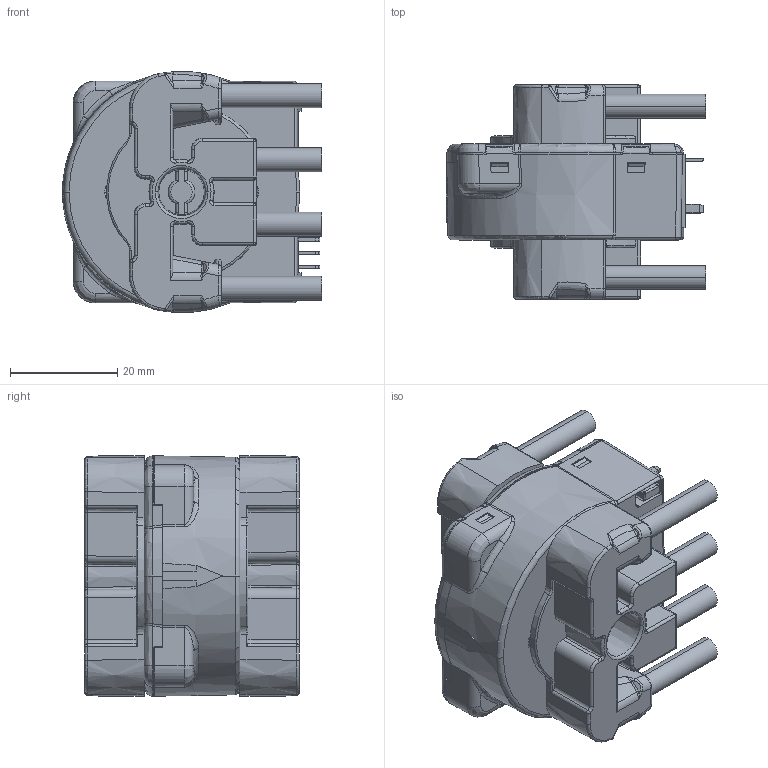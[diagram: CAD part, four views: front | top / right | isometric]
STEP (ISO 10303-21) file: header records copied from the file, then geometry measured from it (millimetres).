
FILE_DESCRIPTION(('Creo Elements/Direct Modeling STEP Export'),'2;1');
FILE_NAME('CTSR XX-TP_SP15_BlackBox.stp','2017-08-16T16:34:39',(''),(''),'PTC Creo Elements/Direct Modeling STEP processor for AP214 (Solid Model)','PTC Creo Elements/Direct Modeling 19.0B 21-Mar-2015 (C) Parametric Technology GmbH','');
FILE_SCHEMA(('AUTOMOTIVE_DESIGN { 1 0 10303 214 1 1 1 1 }'));
Length unit declared in the file: millimetre
Products named in the file (2): Blackbox_CTSR_XX_TP_SP15
Assembly tree (1 placements, depth 2):
  Blackbox_CTSR_XX_TP_SP15
    Blackbox_CTSR_XX_TP_SP15
Bounding box: 48.4 x 40 x 45 mm (x, y, z)
Volume: 48041.2 mm3; surface area: 13328.9 mm2
Topology: 1 solids, 3 shells, 1077 faces, 2831 edges, 1747 vertices
Faces by surface type: plane 422, bspline 339, cylinder 221, torus 47, cone 38, extrusion 10
Entity records: 80389 total; most frequent: CARTESIAN_POINT 57383, ORIENTED_EDGE 5590, DIRECTION 3181, EDGE_CURVE 2795, VERTEX_POINT 1747, VECTOR 1195, LINE 1185, EDGE_LOOP 1104
